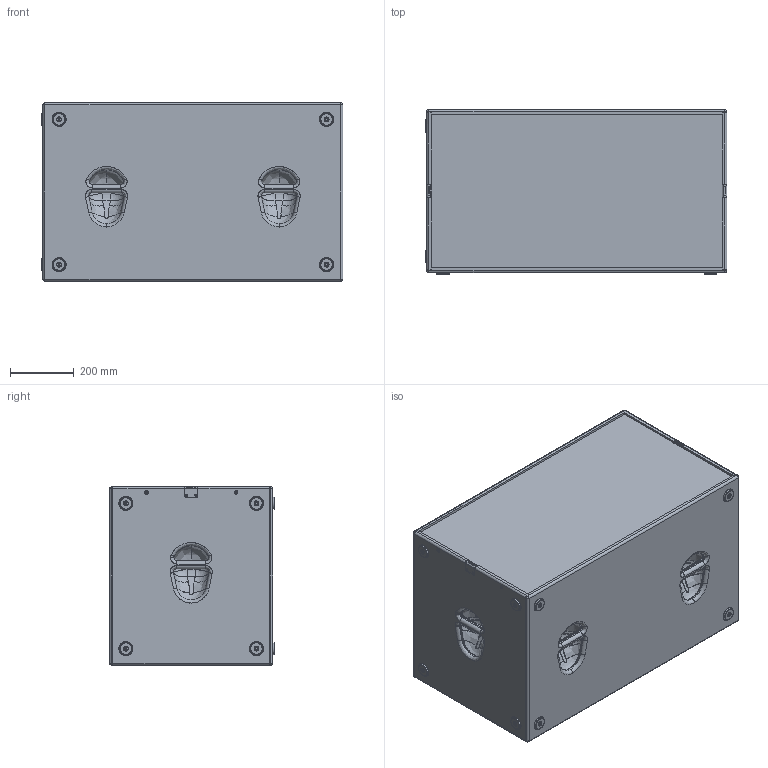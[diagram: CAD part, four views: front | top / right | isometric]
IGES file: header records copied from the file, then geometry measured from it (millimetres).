
Start section: SolidWorks IGES file using analytic representation for surfaces
Global section: file name: C:\Documents and Settings\Administrator\My Documents\Michl\SolidWorks\K-Sub_1502\Homepage\K-Sub-1502.IGS; native system: SolidWorks 2009; preprocessor: SolidWorks 2009; author: Administrator; date: 150716.100036; units: millimetre
Bounding box: 947 x 517 x 560 mm (x, y, z)
Surface area: 5817390.2 mm2 (no closed solid volume)
Topology: 0 solids, 0 shells, 1188 faces, 16779 edges, 16777 vertices
Faces by surface type: bspline 598, revolution 590
